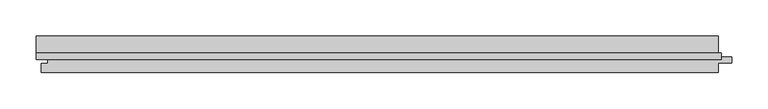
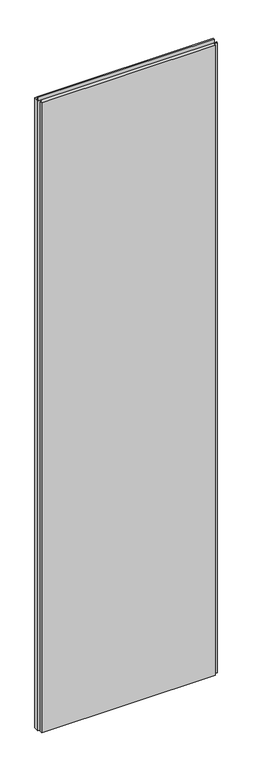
"""IFC4 building model written with IfcOpenShell, lengths in millimetres: plate geometry, Trimo_Qbiss Screen_Normal Panel-VERTICAL : HR - FB."""

import ifcopenshell
import ifcopenshell.guid

model = None  # the IFC model being written
_history = None  # IfcOwnerHistory: only IFC2X3 demands one
_inside = {}  # id of a spatial element -> (the spatial element, [elements in it])
_under = {}  # id of a project, library or spatial element -> (it, [spatial elements below it])
_declared = {}  # id of a project -> (the project, [libraries it declares])
_typed = {}  # id of a type object -> (the type object, [elements of that type])
_made_of = {}  # id of a material, layer set ... -> (it, [elements and type objects made of it])


def new_model(schema):
    """Start an empty IFC model of exactly this schema.

    Asked for "IFC4X3", IfcOpenShell would pick the latest addendum, in which some entities
    have other attributes; the version numbers below select the first issue.
    IFC2X3 requires an IfcOwnerHistory on every rooted entity: one is made here for all.
    """
    global model, _history
    if schema == "IFC4X3":
        model = ifcopenshell.file(schema_version=(4, 3, 0, 0))
    else:
        model = ifcopenshell.file(schema=schema)
    _inside.clear()
    _under.clear()
    _declared.clear()
    _typed.clear()
    _made_of.clear()
    _history = None
    if model.schema == "IFC2X3":
        org = make("IfcOrganization", Name="unknown")
        user = make(
            "IfcPersonAndOrganization",
            ThePerson=make("IfcPerson", FamilyName="unknown"),
            TheOrganization=org,
        )
        app = make(
            "IfcApplication",
            ApplicationDeveloper=org,
            Version="unknown",
            ApplicationFullName="unknown",
            ApplicationIdentifier="unknown",
        )
        _history = make(
            "IfcOwnerHistory",
            OwningUser=user,
            OwningApplication=app,
            ChangeAction="ADDED",
            CreationDate=0,
        )
    return model


def make(cls, **values):
    """One entity of the class cls with the attributes given. An attribute that is None is left unset."""
    return model.create_entity(
        cls, **{name: value for name, value in values.items() if value is not None}
    )


def rooted(cls, **values):
    """An entity with a GlobalId (a new one), such as an element, a storey or a relation."""
    return make(cls, GlobalId=ifcopenshell.guid.new(), OwnerHistory=_history, **values)


def si_unit(unit_type, name, prefix=None):
    """IfcSIUnit, for example si_unit("LENGTHUNIT", "METRE", prefix="MILLI")."""
    return make("IfcSIUnit", UnitType=unit_type, Prefix=prefix, Name=name)


def assignment(units):
    """IfcUnitAssignment: the units of a project."""
    return None if units is None else make("IfcUnitAssignment", Units=units)


def point(xyz):
    """IfcCartesianPoint."""
    return None if xyz is None else make("IfcCartesianPoint", Coordinates=xyz)


def direction(xyz):
    """IfcDirection."""
    return None if xyz is None else make("IfcDirection", DirectionRatios=xyz)


def frame(location, z_axis=None, x_axis=None):
    """IfcAxis2Placement3D, a coordinate frame: its origin and axes. An axis left out is left unset."""
    return make(
        "IfcAxis2Placement3D",
        Location=point(location),
        Axis=direction(z_axis),
        RefDirection=direction(x_axis),
    )


def origin():
    """The frame at (0, 0, 0) with its axes left unset."""
    return frame((0.0, 0.0, 0.0))


def place(relative_to, where):
    """IfcLocalPlacement: puts the frame where relative to a parent placement (None: the world)."""
    return make(
        "IfcLocalPlacement", PlacementRelTo=relative_to, RelativePlacement=where
    )


def context(
    kind, dimensions, precision=None, world=None, true_north=None, identifier=None
):
    """IfcGeometricRepresentationContext, for example the 3D "Model" context."""
    return make(
        "IfcGeometricRepresentationContext",
        ContextIdentifier=identifier,
        ContextType=kind,
        CoordinateSpaceDimension=dimensions,
        Precision=precision,
        WorldCoordinateSystem=world,
        TrueNorth=true_north,
    )


def project(units=None, contexts=None):
    """IfcProject with its units and contexts."""
    return rooted(
        "IfcProject",
        Name="project",
        RepresentationContexts=contexts,
        UnitsInContext=assignment(units),
    )


def spatial(cls, under=None, at=None, **own):
    """A site, building, storey or space (cls), placed at a placement, below another one or the project."""
    s = rooted(cls, ObjectPlacement=at, **own)
    if under is not None:
        _under.setdefault(under.id(), (under, []))[1].append(s)
    return s


def polyline(points):
    """IfcPolyline through the points."""
    return make("IfcPolyline", Points=[point(p) for p in points])


def outline(outer, holes=None, kind="AREA"):
    """IfcArbitraryClosedProfileDef: a profile drawn as a closed curve; with holes, ...WithVoids."""
    if holes is None:
        return make("IfcArbitraryClosedProfileDef", ProfileType=kind, OuterCurve=outer)
    return make(
        "IfcArbitraryProfileDefWithVoids",
        ProfileType=kind,
        OuterCurve=outer,
        InnerCurves=holes,
    )


def extrude(swept, where, along, depth):
    """IfcExtrudedAreaSolid: the profile swept, set in the frame where, extruded along a direction by depth."""
    return make(
        "IfcExtrudedAreaSolid",
        SweptArea=swept,
        Position=where,
        ExtrudedDirection=direction(along),
        Depth=depth,
    )


def shape(context_of_items, identifier, shape_type, items):
    """IfcShapeRepresentation: the items that make up one representation, for example the "Body"."""
    return make(
        "IfcShapeRepresentation",
        ContextOfItems=context_of_items,
        RepresentationIdentifier=identifier,
        RepresentationType=shape_type,
        Items=items,
    )


def source(mapping_origin, context_of_items, identifier, shape_type, items):
    """IfcRepresentationMap: a shape defined once, which mapped items show again and again."""
    return make(
        "IfcRepresentationMap",
        MappingOrigin=mapping_origin,
        MappedRepresentation=shape(context_of_items, identifier, shape_type, items),
    )


def transform(
    local_origin,
    x_axis=None,
    y_axis=None,
    z_axis=None,
    scale=None,
    scale2=None,
    scale3=None,
    uniform=True,
):
    """IfcCartesianTransformationOperator3D, or its non-uniform kind. x_axis, y_axis, z_axis: its Axis1, 2, 3."""
    if uniform:
        return make(
            "IfcCartesianTransformationOperator3D",
            Axis1=direction(x_axis),
            Axis2=direction(y_axis),
            LocalOrigin=point(local_origin),
            Scale=scale,
            Axis3=direction(z_axis),
        )
    return make(
        "IfcCartesianTransformationOperator3DnonUniform",
        Axis1=direction(x_axis),
        Axis2=direction(y_axis),
        LocalOrigin=point(local_origin),
        Scale=scale,
        Axis3=direction(z_axis),
        Scale2=scale2,
        Scale3=scale3,
    )


def mapped(mapping_source, mapping_target):
    """IfcMappedItem: shows the shape of a source again, moved by a transform."""
    return make(
        "IfcMappedItem", MappingSource=mapping_source, MappingTarget=mapping_target
    )


def made_of(thing, what):
    """Note that an element or type object is made of a material, layer set ...; save() writes the relation."""
    if what is not None:
        _made_of.setdefault(what.id(), (what, []))[1].append(thing)
    return thing


def element(
    cls,
    number,
    at=None,
    inside=None,
    cuts=None,
    type_object=None,
    material=None,
    context=None,
    identifier="Body",
    shape_type=None,
    held_by="IfcProductDefinitionShape",
    body=None,
    shapes=None,
    **own,
):
    """One element of the class cls, such as IfcWall. Its Tag is "e" and its number.

    at: its placement. inside: the storey or other place that contains it. cuts: it is an
    opening in that element (IfcRelVoidsElement). A single representation is given by context,
    identifier, shape_type and body (its items); several are given by shapes. held_by: the class
    of the entity that holds the representations. save() writes the other relations.
    """
    e = rooted(cls, Tag="e%d" % number, ObjectPlacement=at, **own)
    if body is not None:
        shapes = [shape(context, identifier, shape_type, body)]
    if shapes is not None:
        e.Representation = make(held_by, Representations=shapes)
    if inside is not None:
        _inside.setdefault(inside.id(), (inside, []))[1].append(e)
    if cuts is not None:
        rooted(
            "IfcRelVoidsElement", RelatingBuildingElement=cuts, RelatedOpeningElement=e
        )
    if type_object is not None:
        _typed.setdefault(type_object.id(), (type_object, []))[1].append(e)
    return made_of(e, material)


def aggregate(whole, parts):
    """IfcRelAggregates: a whole, such as a stair, and the parts it consists of."""
    return rooted("IfcRelAggregates", RelatingObject=whole, RelatedObjects=parts)


def save(model, path):
    """Write the relations noted so far, then the file.

    IfcRelAggregates (storeys below a building ...), IfcRelContainedInSpatialStructure (elements
    in a storey), IfcRelDefinesByType, IfcRelAssociatesMaterial and IfcRelDeclares: one each for
    every whole, place, type object, material and project.
    """
    for whole, parts in _under.values():
        aggregate(whole, parts)
    for where, things in _inside.values():
        rooted(
            "IfcRelContainedInSpatialStructure",
            RelatedElements=things,
            RelatingStructure=where,
        )
    for kind, things in _typed.values():
        rooted("IfcRelDefinesByType", RelatedObjects=things, RelatingType=kind)
    for what, things in _made_of.values():
        rooted("IfcRelAssociatesMaterial", RelatedObjects=things, RelatingMaterial=what)
    for by, libraries in _declared.values():
        rooted("IfcRelDeclares", RelatingContext=by, RelatedDefinitions=libraries)
    model.write(path)


def plate_81766806(model_context):
    return source(origin(), model_context, "Body", "SweptSolid", [
        extrude(outline(polyline([(-472.2, 93.9), (-472.2, 102.6), (472.2, 102.6), (472.2, 93.9), (-472.2, 93.9)])), frame((0.0, 0.0, 3590.5), z_axis=(0.0, 0.0, 1.0), x_axis=(1.0, 0.0, 0.0)), (0.0, 0.0, 1.0), 19.0),
        extrude(outline(polyline([(468.2, 97.0), (486.7, 97.0), (486.7, 89.0), (468.2, 89.0), (468.2, 76.0), (-465.2, 76.0), (-465.2, 88.0), (-456.7, 88.0), (-456.7, 98.0), (-472.2, 98.0), (-472.2, 126.0), (468.2, 126.0), (468.2, 97.0)])), frame((0.0, 0.0, 12.5), z_axis=(0.0, 0.0, 1.0), x_axis=(1.0, 0.0, 0.0)), (0.0, 0.0, 1.0), 3575.0),
    ])


if __name__ == "__main__":
    model = new_model("IFC4")
    model_context = context("Model", 3, world=origin())
    ifc_project = project(units=[si_unit("LENGTHUNIT", "METRE", prefix="MILLI")], contexts=[model_context])
    site = spatial("IfcSite", under=ifc_project)
    building = spatial("IfcBuilding", under=site)
    placement = place(None, origin())
    plate_shape = plate_81766806(model_context)
    element("IfcPlate", 1, ObjectType="Trimo_Qbiss Screen_Normal Panel-VERTICAL : HR - FB", at=placement, inside=building, context=model_context, shape_type="MappedRepresentation", body=[
        mapped(plate_shape, transform((0.0, 0.0, 0.0), x_axis=(1.0, 0.0, 0.0), y_axis=(0.0, 1.0, 0.0), z_axis=(0.0, 0.0, 1.0))),
    ])
    save(model, "model.ifc")
